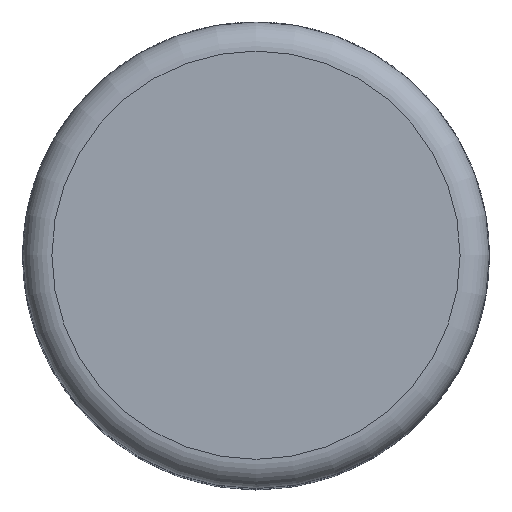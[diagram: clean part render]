
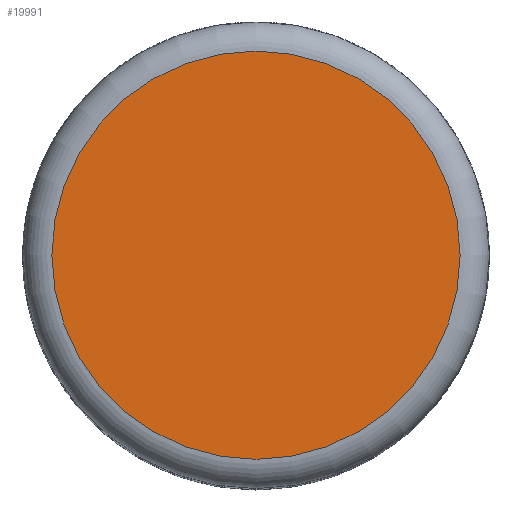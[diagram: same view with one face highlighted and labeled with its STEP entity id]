
A CAD part, top view. The second image highlights one B-rep face of the part: STEP entity #19991.
In plain terms, the highlighted planar face has unit normal (0, 0, 1).
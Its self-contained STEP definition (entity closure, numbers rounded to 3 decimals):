
#218 = TOROIDAL_SURFACE('',#219,7.,1.);
#219 = AXIS2_PLACEMENT_3D('',#220,#221,#222);
#220 = CARTESIAN_POINT('',(0.,0.,29.));
#221 = DIRECTION('',(0.,0.,1.));
#222 = DIRECTION('',(1.,0.,-0.));
#9774 = VERTEX_POINT('',#9775);
#9775 = CARTESIAN_POINT('',(7.,0.,30.));
#9797 = EDGE_CURVE('',#9774,#9774,#9798,.T.);
#9798 = SURFACE_CURVE('',#9799,(#9804,#9811),.PCURVE_S1.);
#9799 = CIRCLE('',#9800,7.);
#9800 = AXIS2_PLACEMENT_3D('',#9801,#9802,#9803);
#9801 = CARTESIAN_POINT('',(0.,0.,30.));
#9802 = DIRECTION('',(0.,0.,1.));
#9803 = DIRECTION('',(1.,0.,-0.));
#9804 = PCURVE('',#218,#9805);
#9805 = DEFINITIONAL_REPRESENTATION('',(#9806),#9810);
#9806 = LINE('',#9807,#9808);
#9807 = CARTESIAN_POINT('',(0.,1.571));
#9808 = VECTOR('',#9809,1.);
#9809 = DIRECTION('',(1.,0.));
#9810 = ( GEOMETRIC_REPRESENTATION_CONTEXT(2) 
PARAMETRIC_REPRESENTATION_CONTEXT() REPRESENTATION_CONTEXT('2D SPACE',''
  ) );
#9811 = PCURVE('',#9812,#9817);
#9812 = PLANE('',#9813);
#9813 = AXIS2_PLACEMENT_3D('',#9814,#9815,#9816);
#9814 = CARTESIAN_POINT('',(0.,0.,30.));
#9815 = DIRECTION('',(0.,0.,1.));
#9816 = DIRECTION('',(1.,0.,-0.));
#9817 = DEFINITIONAL_REPRESENTATION('',(#9818),#9822);
#9818 = CIRCLE('',#9819,7.);
#9819 = AXIS2_PLACEMENT_2D('',#9820,#9821);
#9820 = CARTESIAN_POINT('',(0.,0.));
#9821 = DIRECTION('',(1.,0.));
#9822 = ( GEOMETRIC_REPRESENTATION_CONTEXT(2) 
PARAMETRIC_REPRESENTATION_CONTEXT() REPRESENTATION_CONTEXT('2D SPACE',''
  ) );
#19991 = ADVANCED_FACE('',(#19992),#9812,.T.);
#19992 = FACE_BOUND('',#19993,.T.);
#19993 = EDGE_LOOP('',(#19994));
#19994 = ORIENTED_EDGE('',*,*,#9797,.T.);
